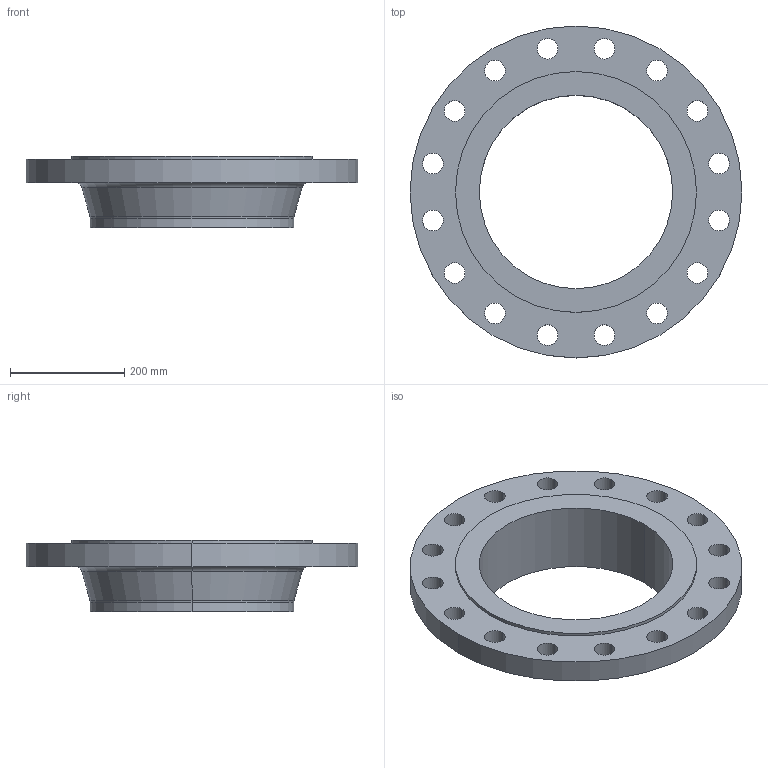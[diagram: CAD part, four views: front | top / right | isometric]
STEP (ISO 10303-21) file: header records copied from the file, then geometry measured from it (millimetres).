
FILE_DESCRIPTION (( 'STEP AP214' ), '1' );
FILE_NAME ('PN40 DN350 Type 11 - Type E Face.STEP', '2019-01-05T21:53:41', ( '' ), ( '' ), 'SwSTEP 2.0', 'SolidWorks 2019', '' );
FILE_SCHEMA (( 'AUTOMOTIVE_DESIGN' ));
Length unit declared in the file: millimetre
Products named in the file (1): PN40 DN350 Type 11 - Type E Face
Bounding box: 580 x 580 x 125 mm (x, y, z)
Volume: 8054054.1 mm3; surface area: 674540.2 mm2
Topology: 1 solids, 1 shells, 50 faces, 132 edges, 86 vertices
Faces by surface type: cylinder 40, torus 4, plane 4, cone 2
Entity records: 1700 total; most frequent: DIRECTION 324, CARTESIAN_POINT 269, ORIENTED_EDGE 264, AXIS2_PLACEMENT_3D 141, EDGE_CURVE 132, CIRCLE 90, VERTEX_POINT 86, EDGE_LOOP 86
